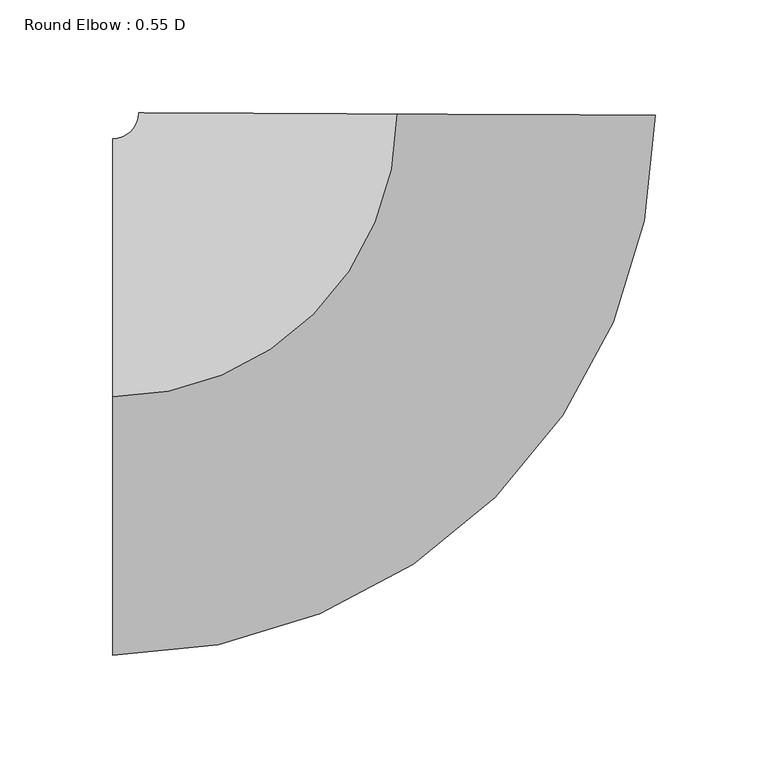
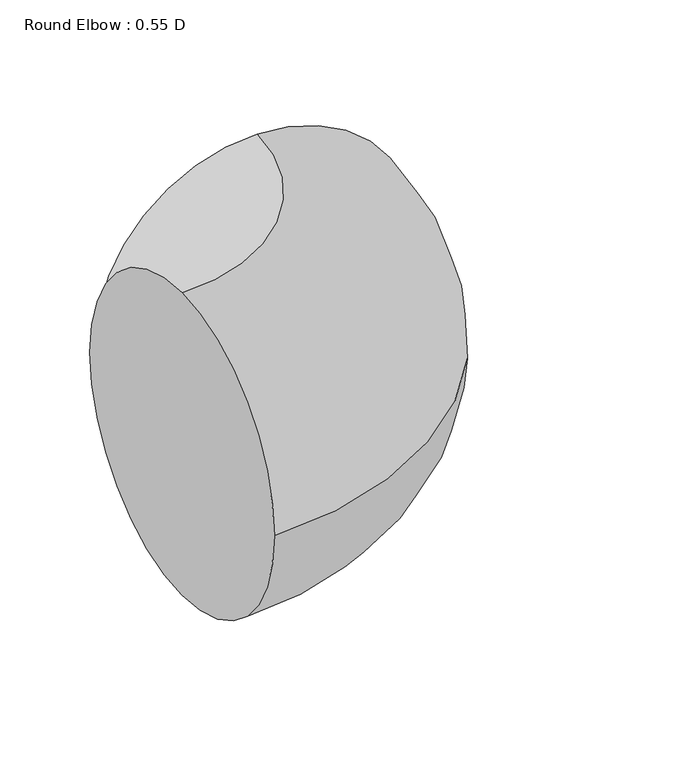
"""IFC4 building model written with IfcOpenShell, lengths in millimetres: duct fitting geometry, Round Elbow : 0.55 D."""

from ifc_helpers import new_model, si_unit, point, frame, origin, place, context, project, spatial, circle_curve, ellipse_curve, trimmed, source, transform, mapped, element, save
from ifc_brep_helpers import plane_surface, revolved_surface, advanced_brep


def round_elbow_0_55_d_1c0d1807(model_context):
    return source(origin(), model_context, "Body", "AdvancedBrep", [
        advanced_brep(
        [(-125.1577998, 0.0, 114.3), (-125.1577998, 114.3, 0.0), (-125.1577998, 0.0, -114.3), (-125.1577998, -114.3, 0.0), (0.5708922, 125.1564978, 114.3), (114.8697031, 124.6351322, 0.0), (0.5708922, 125.1564978, -114.3), (-113.7279187, 125.6778634, 0.0)],
        [
            (0, 1, circle_curve(frame((-125.1577998, 0.0, 0.0), z_axis=(-1.0, 0.0, 0.0), x_axis=(0.0, 1.0, 0.0)), 114.3)),
            (1, 2, circle_curve(frame((-125.1577998, 0.0, 0.0), z_axis=(-1.0, 0.0, 0.0), x_axis=(0.0, 1.0, 0.0)), 114.3)),
            (2, 3, circle_curve(frame((-125.1577998, 0.0, 0.0), z_axis=(-1.0, 0.0, 0.0), x_axis=(0.0, 1.0, 0.0)), 114.3)),
            (3, 0, circle_curve(frame((-125.1577998, 0.0, 0.0), z_axis=(-1.0, 0.0, 0.0), x_axis=(0.0, 1.0, 0.0)), 114.3)),
            (4, 5, circle_curve(frame((0.5708922, 125.1564978, 0.0), z_axis=(0.0045613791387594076, 0.9999895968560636, 0.0), x_axis=(-0.9999895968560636, 0.0045613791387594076, 0.0)), 114.3)),
            (5, 6, circle_curve(frame((0.5708922, 125.1564978, 0.0), z_axis=(0.0045613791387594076, 0.9999895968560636, 0.0), x_axis=(-0.9999895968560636, 0.0045613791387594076, 0.0)), 114.3)),
            (6, 7, circle_curve(frame((0.5708922, 125.1564978, 0.0), z_axis=(0.0045613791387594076, 0.9999895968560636, 0.0), x_axis=(-0.9999895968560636, 0.0045613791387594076, 0.0)), 114.3)),
            (7, 4, circle_curve(frame((0.5708922, 125.1564978, 0.0), z_axis=(0.0045613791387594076, 0.9999895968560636, 0.0), x_axis=(-0.9999895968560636, 0.0045613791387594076, 0.0)), 114.3)),
            (7, 1, circle_curve(frame((-125.1577998, 125.73, 0.0), z_axis=(0.0, 0.0, -1.0), x_axis=(0.0, -1.0, 0.0)), 11.43)),
            (0, 4, circle_curve(frame((-125.1577998, 125.73, 114.3), z_axis=(0.0, 0.0, 1.0), x_axis=(0.0, -1.0, 0.0)), 125.73)),
            (6, 2, circle_curve(frame((-125.1577998, 125.73, -114.3), z_axis=(0.0, 0.0, -1.0), x_axis=(0.0, -1.0, 0.0)), 125.73)),
            (5, 3, circle_curve(frame((-125.1577998, 125.73, 0.0), z_axis=(0.0, 0.0, -1.0), x_axis=(0.0, -1.0, 0.0)), 240.03)),
        ],
        [
            plane_surface(frame((-125.1577998, 0.0, 0.0), z_axis=(-1.0, 0.0, 0.0), x_axis=(0.0, 0.0, 1.0))),
            plane_surface(frame((0.5708922, 125.1564978, 0.0), z_axis=(0.004561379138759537, 0.9999895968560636, 0.0), x_axis=(0.0, 0.0, 1.0))),
            revolved_surface(trimmed(ellipse_curve(frame((-125.1577998, 0.0, 0.0), z_axis=(-1.0, 0.0, 0.0), x_axis=(0.0, 1.0, 0.0)), 114.3, 114.3), [point((-125.1577998, 0.0, 114.3))], [point((-125.1577998, 114.3, 0.0))], True, "CARTESIAN"), (-125.1577998, 125.73, 0.0), (0.0, 0.0, 1.0)),
            revolved_surface(trimmed(ellipse_curve(frame((-125.1577998, 0.0, 0.0), z_axis=(-1.0, 0.0, 0.0), x_axis=(0.0, 1.0, 0.0)), 114.3, 114.3), [point((-125.1577998, 114.3, 0.0))], [point((-125.1577998, 0.0, -114.3))], True, "CARTESIAN"), (-125.1577998, 125.73, 0.0), (0.0, 0.0, 1.0)),
            revolved_surface(trimmed(ellipse_curve(frame((-125.1577998, 0.0, 0.0), z_axis=(-1.0, 0.0, 0.0), x_axis=(0.0, 1.0, 0.0)), 114.3, 114.3), [point((-125.1577998, 0.0, -114.3))], [point((-125.1577998, -114.3, 0.0))], True, "CARTESIAN"), (-125.1577998, 125.73, 0.0), (0.0, 0.0, 1.0)),
            revolved_surface(trimmed(ellipse_curve(frame((-125.1577998, 0.0, 0.0), z_axis=(-1.0, 0.0, 0.0), x_axis=(0.0, 1.0, 0.0)), 114.3, 114.3), [point((-125.1577998, -114.3, 0.0))], [point((-125.1577998, 0.0, 114.3))], True, "CARTESIAN"), (-125.1577998, 125.73, 0.0), (0.0, 0.0, 1.0)),
        ],
        [
            (0, [[1, 2, 3, 4]]),
            (1, [[5, 6, 7, 8]]),
            (2, [[9, -1, 10, -8]]),
            (3, [[11, -2, -9, -7]]),
            (4, [[12, -3, -11, -6]]),
            (5, [[-10, -4, -12, -5]]),
        ],
    ),
    ])


if __name__ == "__main__":
    model = new_model("IFC4")
    model_context = context("Model", 3, world=origin())
    ifc_project = project(units=[si_unit("LENGTHUNIT", "METRE", prefix="MILLI")], contexts=[model_context])
    site = spatial("IfcSite", under=ifc_project)
    building = spatial("IfcBuilding", under=site)
    placement = place(None, origin())
    round_elbow_0_55_d_shape = round_elbow_0_55_d_1c0d1807(model_context)
    element("IfcDuctFitting", 1, ObjectType="Round Elbow : 0.55 D", at=placement, inside=building, context=model_context, shape_type="MappedRepresentation", body=[
        mapped(round_elbow_0_55_d_shape, transform((0.0, 0.0, 0.0), x_axis=(1.0, 0.0, 0.0), y_axis=(0.0, 1.0, 0.0), z_axis=(0.0, 0.0, 1.0))),
    ])
    save(model, "model.ifc")
